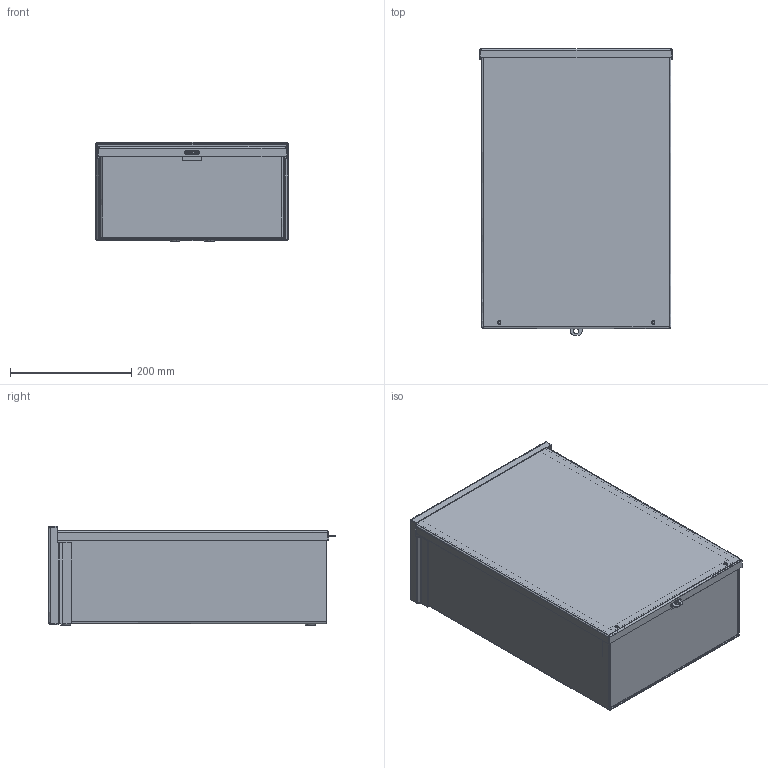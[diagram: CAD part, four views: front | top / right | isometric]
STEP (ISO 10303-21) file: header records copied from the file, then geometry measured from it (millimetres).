
FILE_DESCRIPTION((''),'2;1');
FILE_NAME('D:\scratch\ideas\a18r126nk.stp','2007-01-24T10:17:47',( 'User'),('SDRC'),'I-DEAS Master Series 9','UNIX','Yes');
FILE_SCHEMA(('AUTOMOTIVE_DESIGN { 1 0 10303 214 0 1 1 1 }'));
Length unit declared in the file: inch
Products named in the file (7): 13504; 3rsc_wmt_body_18x12x6_nk; 3rsc_top_12x6; 3rsc_bottom_12x6_nk; 3rsc_body_18x12x6; 3rsc_cover_18x12; 78124001
Assembly tree (6 placements, depth 3):
  13504
    3rsc_wmt_body_18x12x6_nk
      3rsc_top_12x6
      3rsc_bottom_12x6_nk
      3rsc_body_18x12x6
    3rsc_cover_18x12
    78124001
Bounding box: 317.5 x 473.15 x 163.83 mm (x, y, z)
Volume: 800115 mm3; surface area: 1154469.7 mm2
Topology: 5 solids, 5 shells, 239 faces, 615 edges, 392 vertices
Faces by surface type: bspline 239
Entity records: 7574 total; most frequent: CARTESIAN_POINT 3603, ORIENTED_EDGE 1230, EDGE_CURVE 615, VERTEX_POINT 392, QUASI_UNIFORM_CURVE 308, EDGE_LOOP 273, FACE_OUTER_BOUND 239, ADVANCED_FACE 239
